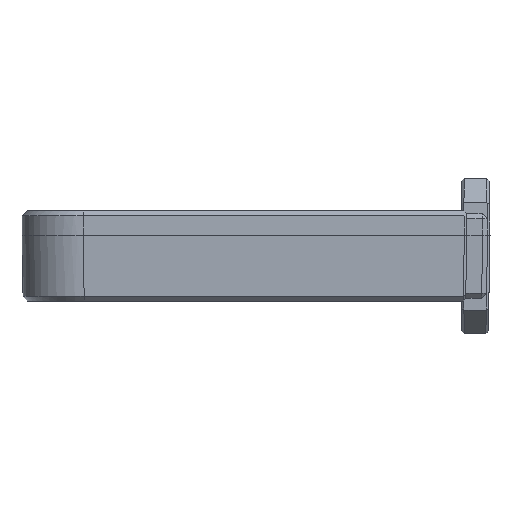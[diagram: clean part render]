
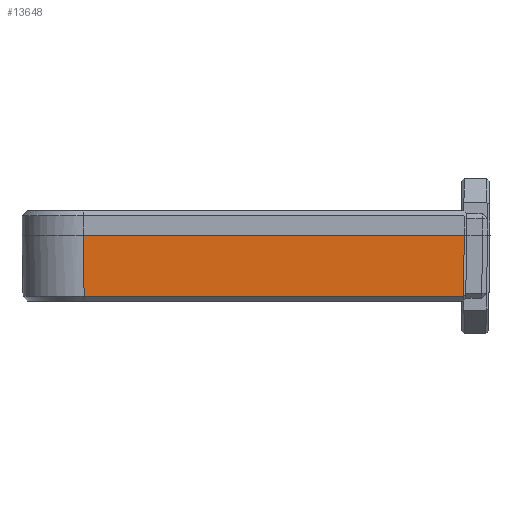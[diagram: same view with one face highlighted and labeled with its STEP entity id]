
A CAD part, left-side view. The second image highlights one B-rep face of the part: STEP entity #13648.
In plain terms, the highlighted planar face has unit normal (-1, 0, -0.018).
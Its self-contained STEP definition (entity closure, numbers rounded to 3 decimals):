
#2030 = VECTOR ( 'NONE', #44179, 1000. ) ;
#2851 = DIRECTION ( 'NONE',  ( -1., 0., -0.017 ) ) ;
#2870 = EDGE_CURVE ( 'NONE', #31396, #40006, #27754, .T. ) ;
#3132 = CARTESIAN_POINT ( 'NONE',  ( -88.952, 64.956, 5.761 ) ) ;
#7658 = CARTESIAN_POINT ( 'NONE',  ( -89., -91., 8.5 ) ) ;
#8787 = DIRECTION ( 'NONE',  ( 0., -1., 0. ) ) ;
#10581 = CARTESIAN_POINT ( 'NONE',  ( -88.564, 64.568, -16.464 ) ) ;
#12316 = VECTOR ( 'NONE', #8787, 1000. ) ;
#12539 = VECTOR ( 'NONE', #71606, 1000. ) ;
#13012 = LINE ( 'NONE', #20317, #42200 ) ;
#13218 = CARTESIAN_POINT ( 'NONE',  ( -88.564, -90.564, -16.464 ) ) ;
#13648 = ADVANCED_FACE ( 'NONE', ( #68380 ), #60679, .T. ) ;
#14377 = LINE ( 'NONE', #36981, #12539 ) ;
#20317 = CARTESIAN_POINT ( 'NONE',  ( -89., -92., 8.5 ) ) ;
#21189 = EDGE_LOOP ( 'NONE', ( #62837, #72300, #62575, #50269 ) ) ;
#27754 = LINE ( 'NONE', #57987, #12316 ) ;
#31396 = VERTEX_POINT ( 'NONE', #10581 ) ;
#36130 = EDGE_CURVE ( 'NONE', #72208, #65823, #13012, .T. ) ;
#36981 = CARTESIAN_POINT ( 'NONE',  ( -89., -91., 8.517 ) ) ;
#40006 = VERTEX_POINT ( 'NONE', #13218 ) ;
#42200 = VECTOR ( 'NONE', #49569, 1000. ) ;
#43646 = DIRECTION ( 'NONE',  ( -0.017, 0., 1. ) ) ;
#43836 = EDGE_CURVE ( 'NONE', #40006, #72208, #14377, .T. ) ;
#44179 = DIRECTION ( 'NONE',  ( 0.017, -0.017, -1. ) ) ;
#48530 = LINE ( 'NONE', #3132, #2030 ) ;
#49569 = DIRECTION ( 'NONE',  ( 0., 1., 0. ) ) ;
#50269 = ORIENTED_EDGE ( 'NONE', *, *, #69826, .T. ) ;
#50591 = CARTESIAN_POINT ( 'NONE',  ( -89., 65.004, 8.5 ) ) ;
#53630 = AXIS2_PLACEMENT_3D ( 'NONE', #72329, #2851, #43646 ) ;
#57987 = CARTESIAN_POINT ( 'NONE',  ( -88.564, -91.529, -16.464 ) ) ;
#60679 = PLANE ( 'NONE',  #53630 ) ;
#62575 = ORIENTED_EDGE ( 'NONE', *, *, #36130, .T. ) ;
#62837 = ORIENTED_EDGE ( 'NONE', *, *, #2870, .T. ) ;
#65823 = VERTEX_POINT ( 'NONE', #50591 ) ;
#68380 = FACE_OUTER_BOUND ( 'NONE', #21189, .T. ) ;
#69826 = EDGE_CURVE ( 'NONE', #65823, #31396, #48530, .T. ) ;
#71606 = DIRECTION ( 'NONE',  ( -0.017, -0.017, 1. ) ) ;
#72208 = VERTEX_POINT ( 'NONE', #7658 ) ;
#72300 = ORIENTED_EDGE ( 'NONE', *, *, #43836, .T. ) ;
#72329 = CARTESIAN_POINT ( 'NONE',  ( -89., -92., 8.5 ) ) ;
